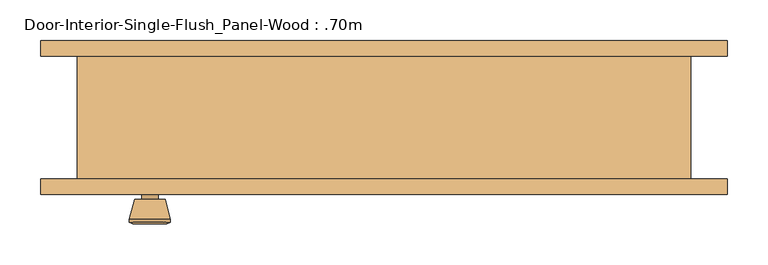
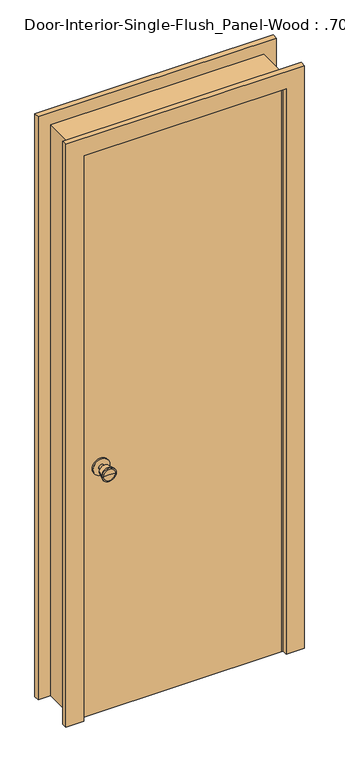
"""IFC4 building model written with IfcOpenShell, lengths in millimetres: door geometry, Door-Interior-Single-Flush_Panel-Wood : .70m."""

from ifc_helpers import new_model, si_unit, point, frame, frame_2d, origin, origin_with_axes, place, context, project, spatial, polyline, circle_curve, trimmed, segment, composite_curve, outline, extrude, faceted_brep, source, transform, mapped, element, save
from ifc_brep_helpers import plane_surface, cylinder_surface, revolved_surface, advanced_brep


def door_interior_single_flush_panel_wood_70m_eb1ec4d9(model_context):
    return source(origin(), model_context, "Body", "SolidModel", [
        advanced_brep(
        [(-286.5, -30.9, 914.4), (-296.5, -30.9, 914.4), (-276.5, -30.9, 914.4), (-266.0241324, 18.1, 914.4), (-306.9758676, 18.1, 914.4), (-286.5, 18.1, 914.4), (-261.5, 16.2721319, 914.4), (-311.5, 16.2721319, 914.4), (-261.5, 12.8084537, 914.4), (-311.5, 12.8084537, 914.4), (-267.863764, -11.9, 914.4), (-305.136236, -11.9, 914.4), (-276.5, -11.9, 914.4), (-296.5, -11.9, 914.4)],
        [
            (0, 1),
            (1, 2, circle_curve(frame((-286.5, -30.9, 914.4), z_axis=(0.0, -1.0, 0.0), x_axis=(-1.0, 0.0, 0.0)), 10.0)),
            (2, 0),
            (2, 1, circle_curve(frame((-286.5, -30.9, 914.4), z_axis=(0.0, -1.0, 0.0), x_axis=(-1.0, 0.0, 0.0)), 10.0)),
            (3, 4, circle_curve(frame((-286.5, 18.1, 914.4), z_axis=(0.0, 1.0, 0.0), x_axis=(-1.0, 0.0, 0.0)), 20.4758676)),
            (4, 5),
            (5, 3),
            (4, 3, circle_curve(frame((-286.5, 18.1, 914.4), z_axis=(0.0, 1.0, 0.0), x_axis=(-1.0, 0.0, 0.0)), 20.4758676)),
            (6, 7, circle_curve(frame((-286.5, 16.2721319, 914.4), z_axis=(0.0, 1.0, 0.0), x_axis=(-1.0, 0.0, 0.0)), 25.0)),
            (7, 4),
            (3, 6),
            (7, 6, circle_curve(frame((-286.5, 16.2721319, 914.4), z_axis=(0.0, 1.0, 0.0), x_axis=(-1.0, 0.0, 0.0)), 25.0)),
            (8, 9, circle_curve(frame((-286.5, 12.8084537, 914.4), z_axis=(0.0, 1.0, 0.0), x_axis=(-1.0, 0.0, 0.0)), 25.0)),
            (9, 7),
            (6, 8),
            (9, 8, circle_curve(frame((-286.5, 12.8084537, 914.4), z_axis=(0.0, 1.0, 0.0), x_axis=(-1.0, 0.0, 0.0)), 25.0)),
            (10, 11, circle_curve(frame((-286.5, -11.9, 914.4), z_axis=(0.0, 1.0, 0.0), x_axis=(-1.0, 0.0, 0.0)), 18.636236)),
            (11, 9),
            (8, 10),
            (11, 10, circle_curve(frame((-286.5, -11.9, 914.4), z_axis=(0.0, 1.0, 0.0), x_axis=(-1.0, 0.0, 0.0)), 18.636236)),
            (12, 13, circle_curve(frame((-286.5, -11.9, 914.4), z_axis=(0.0, 1.0, 0.0), x_axis=(-1.0, 0.0, 0.0)), 10.0)),
            (13, 11),
            (10, 12),
            (13, 12, circle_curve(frame((-286.5, -11.9, 914.4), z_axis=(0.0, 1.0, 0.0), x_axis=(-1.0, 0.0, 0.0)), 10.0)),
            (1, 13),
            (12, 2),
        ],
        [
            plane_surface(frame((-286.5, -30.9, 914.4), z_axis=(0.0, -1.0, 0.0), x_axis=(-1.0, 0.0, 0.0))),
            plane_surface(frame((-286.5, 18.1, 914.4), z_axis=(0.0, 1.0, 0.0), x_axis=(-1.0, 0.0, 0.0))),
            revolved_surface(polyline([(-306.9758676, 18.1, 914.4), (-311.5, 16.2721319, 914.4)]), (-286.5, -30.9, 914.4), (0.0, -1.0, 0.0)),
            cylinder_surface(frame((-286.5, -30.9, 914.4), z_axis=(0.0, -1.0, 0.0), x_axis=(-1.0, 0.0, 0.0)), 25.0),
            revolved_surface(polyline([(-311.5, 12.8084537, 914.4), (-305.136236, -11.9, 914.4)]), (-286.5, -30.9, 914.4), (0.0, -1.0, 0.0)),
            plane_surface(frame((-286.5, -11.9, 914.4), z_axis=(0.0, -1.0, 0.0), x_axis=(-1.0, 0.0, 0.0))),
            cylinder_surface(frame((-286.5, -30.9, 914.4), z_axis=(0.0, -1.0, 0.0), x_axis=(-1.0, 0.0, 0.0)), 10.0),
        ],
        [
            (0, [[1, 2, 3]]),
            (0, [[-3, 4, -1]]),
            (1, [[5, 6, 7]]),
            (1, [[8, -7, -6]]),
            (2, [[9, 10, -5, 11]]),
            (2, [[12, -11, -8, -10]]),
            (3, [[13, 14, -9, 15]]),
            (3, [[16, -15, -12, -14]]),
            (4, [[17, 18, -13, 19]]),
            (4, [[20, -19, -16, -18]]),
            (5, [[21, 22, -17, 23]]),
            (5, [[24, -23, -20, -22]]),
            (6, [[-2, 25, -21, 26]]),
            (6, [[-4, -26, -24, -25]]),
        ],
    ),
        extrude(outline(composite_curve([segment(trimmed(circle_curve(frame_2d((914.4, -286.5)), 30.0), [point((914.4, -316.5))], [point((914.4, -256.5))], False, "CARTESIAN"), True, "CONTINUOUS"), segment(trimmed(circle_curve(frame_2d((914.4, -286.5)), 30.0), [point((914.4, -256.5))], [point((914.4, -316.5))], False, "CARTESIAN"), True, "CONTINUOUS")], self_intersect=False)), frame((0.0, -36.9, 0.0), z_axis=(0.0, 1.0, 0.0), x_axis=(0.0, 0.0, 1.0)), (0.0, 0.0, 1.0), 6.0),
        advanced_brep(
        [(-286.5, -77.825, 914.4), (-276.5, -77.825, 914.4), (-296.5, -77.825, 914.4), (-266.0241324, -126.825, 914.4), (-286.5, -126.825, 914.4), (-306.9758676, -126.825, 914.4), (-261.5, -124.9971319, 914.4), (-311.5, -124.9971319, 914.4), (-261.5, -121.5334537, 914.4), (-311.5, -121.5334537, 914.4), (-267.863764, -96.825, 914.4), (-305.136236, -96.825, 914.4), (-276.5, -96.825, 914.4), (-296.5, -96.825, 914.4)],
        [
            (0, 1),
            (1, 2, circle_curve(frame((-286.5, -77.825, 914.4), z_axis=(0.0, 1.0, 0.0), x_axis=(-1.0, 0.0, 0.0)), 10.0)),
            (2, 0),
            (2, 1, circle_curve(frame((-286.5, -77.825, 914.4), z_axis=(0.0, 1.0, 0.0), x_axis=(-1.0, 0.0, 0.0)), 10.0)),
            (3, 4),
            (4, 5),
            (5, 3, circle_curve(frame((-286.5, -126.825, 914.4), z_axis=(0.0, -1.0, 0.0), x_axis=(-1.0, 0.0, 0.0)), 20.4758676)),
            (3, 5, circle_curve(frame((-286.5, -126.825, 914.4), z_axis=(0.0, -1.0, 0.0), x_axis=(-1.0, 0.0, 0.0)), 20.4758676)),
            (6, 3),
            (5, 7),
            (7, 6, circle_curve(frame((-286.5, -124.9971319, 914.4), z_axis=(0.0, -1.0, 0.0), x_axis=(-1.0, 0.0, 0.0)), 25.0)),
            (6, 7, circle_curve(frame((-286.5, -124.9971319, 914.4), z_axis=(0.0, -1.0, 0.0), x_axis=(-1.0, 0.0, 0.0)), 25.0)),
            (8, 6),
            (7, 9),
            (9, 8, circle_curve(frame((-286.5, -121.5334537, 914.4), z_axis=(0.0, -1.0, 0.0), x_axis=(-1.0, 0.0, 0.0)), 25.0)),
            (8, 9, circle_curve(frame((-286.5, -121.5334537, 914.4), z_axis=(0.0, -1.0, 0.0), x_axis=(-1.0, 0.0, 0.0)), 25.0)),
            (10, 8),
            (9, 11),
            (11, 10, circle_curve(frame((-286.5, -96.825, 914.4), z_axis=(0.0, -1.0, 0.0), x_axis=(-1.0, 0.0, 0.0)), 18.636236)),
            (10, 11, circle_curve(frame((-286.5, -96.825, 914.4), z_axis=(0.0, -1.0, 0.0), x_axis=(-1.0, 0.0, 0.0)), 18.636236)),
            (12, 10),
            (11, 13),
            (13, 12, circle_curve(frame((-286.5, -96.825, 914.4), z_axis=(0.0, -1.0, 0.0), x_axis=(-1.0, 0.0, 0.0)), 10.0)),
            (12, 13, circle_curve(frame((-286.5, -96.825, 914.4), z_axis=(0.0, -1.0, 0.0), x_axis=(-1.0, 0.0, 0.0)), 10.0)),
            (1, 12),
            (13, 2),
        ],
        [
            plane_surface(frame((-286.5, -77.825, 914.4), z_axis=(0.0, 1.0, 0.0), x_axis=(-1.0, 0.0, 0.0))),
            plane_surface(frame((-286.5, -126.825, 914.4), z_axis=(0.0, -1.0, 0.0), x_axis=(-1.0, 0.0, 0.0))),
            revolved_surface(polyline([(-306.9758676, -126.825, 914.4), (-311.5, -124.9971319, 914.4)]), (-286.5, -77.825, 914.4), (0.0, 1.0, 0.0)),
            cylinder_surface(frame((-286.5, -77.825, 914.4), z_axis=(0.0, 1.0, 0.0), x_axis=(-1.0, 0.0, 0.0)), 25.0),
            revolved_surface(polyline([(-311.5, -121.5334537, 914.4), (-305.136236, -96.825, 914.4)]), (-286.5, -77.825, 914.4), (0.0, 1.0, 0.0)),
            plane_surface(frame((-286.5, -96.825, 914.4), z_axis=(0.0, 1.0, 0.0), x_axis=(-1.0, 0.0, 0.0))),
            cylinder_surface(frame((-286.5, -77.825, 914.4), z_axis=(0.0, 1.0, 0.0), x_axis=(-1.0, 0.0, 0.0)), 10.0),
        ],
        [
            (0, [[1, 2, 3]]),
            (0, [[-3, 4, -1]]),
            (1, [[5, 6, 7]]),
            (1, [[-6, -5, 8]]),
            (2, [[9, -7, 10, 11]]),
            (2, [[-10, -8, -9, 12]]),
            (3, [[13, -11, 14, 15]]),
            (3, [[-14, -12, -13, 16]]),
            (4, [[17, -15, 18, 19]]),
            (4, [[-18, -16, -17, 20]]),
            (5, [[21, -19, 22, 23]]),
            (5, [[-22, -20, -21, 24]]),
            (6, [[25, -23, 26, -2]]),
            (6, [[-26, -24, -25, -4]]),
        ],
    ),
        extrude(outline(composite_curve([segment(trimmed(circle_curve(frame_2d((914.4, -286.5)), 30.0), [point((914.4, -316.5))], [point((914.4, -256.5))], False, "CARTESIAN"), True, "CONTINUOUS"), segment(trimmed(circle_curve(frame_2d((914.4, -286.5)), 30.0), [point((914.4, -256.5))], [point((914.4, -316.5))], False, "CARTESIAN"), True, "CONTINUOUS")], self_intersect=False)), frame((0.0, -77.825, 0.0), z_axis=(0.0, 1.0, 0.0), x_axis=(0.0, 0.0, 1.0)), (0.0, 0.0, 1.0), 6.0),
        extrude(outline(polyline([(350.0, -36.9), (350.0, -71.825), (-350.0, -71.825), (-350.0, -36.9), (350.0, -36.9)])), origin_with_axes(), (0.0, 0.0, 1.0), 2100.0),
        faceted_brep([(375.4, -71.825, 0.0), (350.0, -71.825, 0.0), (350.0, -36.9, 0.0), (337.3, -36.9, 0.0), (337.3, -1.975, 0.0), (350.0, -1.975, 0.0), (350.0, 78.175, 0.0), (375.4, 78.175, 0.0), (375.4, 78.175, 2125.4), (375.4, -71.825, 2125.4), (350.0, 78.175, 2100.0), (-350.0, 78.175, 2100.0), (-350.0, 78.175, 0.0), (-375.4, 78.175, 0.0), (-375.4, 78.175, 2125.4), (350.0, -1.975, 2100.0), (337.3, -1.975, 2087.3), (-337.3, -1.975, 2087.3), (-337.3, -1.975, 0.0), (-350.0, -1.975, 0.0), (-350.0, -1.975, 2100.0), (337.3, -36.9, 2087.3), (350.0, -36.9, 2100.0), (-350.0, -36.9, 2100.0), (-350.0, -36.9, 0.0), (-337.3, -36.9, 0.0), (-337.3, -36.9, 2087.3), (350.0, -71.825, 2100.0), (-375.4, -71.825, 2125.4), (-375.4, -71.825, 0.0), (-350.0, -71.825, 0.0), (-350.0, -71.825, 2100.0)], [[[0, 1, 2, 3, 4, 5, 6, 7]], [[7, 8, 9, 0]], [[6, 10, 11, 12, 13, 14, 8, 7]], [[5, 15, 10, 6]], [[4, 16, 17, 18, 19, 20, 15, 5]], [[3, 21, 16, 4]], [[2, 22, 23, 24, 25, 26, 21, 3]], [[1, 27, 22, 2]], [[0, 9, 28, 29, 30, 31, 27, 1]], [[8, 14, 28, 9]], [[15, 20, 11, 10]], [[21, 26, 17, 16]], [[27, 31, 23, 22]], [[29, 13, 12, 19, 18, 25, 24, 30]], [[14, 13, 29, 28]], [[20, 19, 12, 11]], [[26, 25, 18, 17]], [[31, 30, 24, 23]]]),
        extrude(outline(polyline([(0.0, 419.85), (2169.85, 419.85), (2169.85, -419.85), (0.0, -419.85), (0.0, -356.35), (2106.35, -356.35), (2106.35, 356.35), (0.0, 356.35), (0.0, 419.85)])), frame((0.0, 78.175, 0.0), z_axis=(0.0, 1.0, 0.0), x_axis=(0.0, 0.0, 1.0)), (0.0, 0.0, 1.0), 19.05),
        extrude(outline(polyline([(0.0, 419.85), (2169.85, 419.85), (2169.85, -419.85), (0.0, -419.85), (0.0, -356.35), (2106.35, -356.35), (2106.35, 356.35), (0.0, 356.35), (0.0, 419.85)])), frame((0.0, -90.875, 0.0), z_axis=(0.0, 1.0, 0.0), x_axis=(0.0, 0.0, 1.0)), (0.0, 0.0, 1.0), 19.05),
    ])


if __name__ == "__main__":
    model = new_model("IFC4")
    model_context = context("Model", 3, world=origin())
    ifc_project = project(units=[si_unit("LENGTHUNIT", "METRE", prefix="MILLI")], contexts=[model_context])
    site = spatial("IfcSite", under=ifc_project)
    building = spatial("IfcBuilding", under=site)
    placement = place(None, origin())
    door_interior_single_flush_panel_wood_70m_shape = door_interior_single_flush_panel_wood_70m_eb1ec4d9(model_context)
    element("IfcDoor", 1, ObjectType="Door-Interior-Single-Flush_Panel-Wood : .70m", at=placement, inside=building, context=model_context, shape_type="MappedRepresentation", body=[
        mapped(door_interior_single_flush_panel_wood_70m_shape, transform((0.0, 0.0, 0.0), x_axis=(1.0, 0.0, 0.0), y_axis=(0.0, 1.0, 0.0), z_axis=(0.0, 0.0, 1.0))),
    ])
    save(model, "model.ifc")
